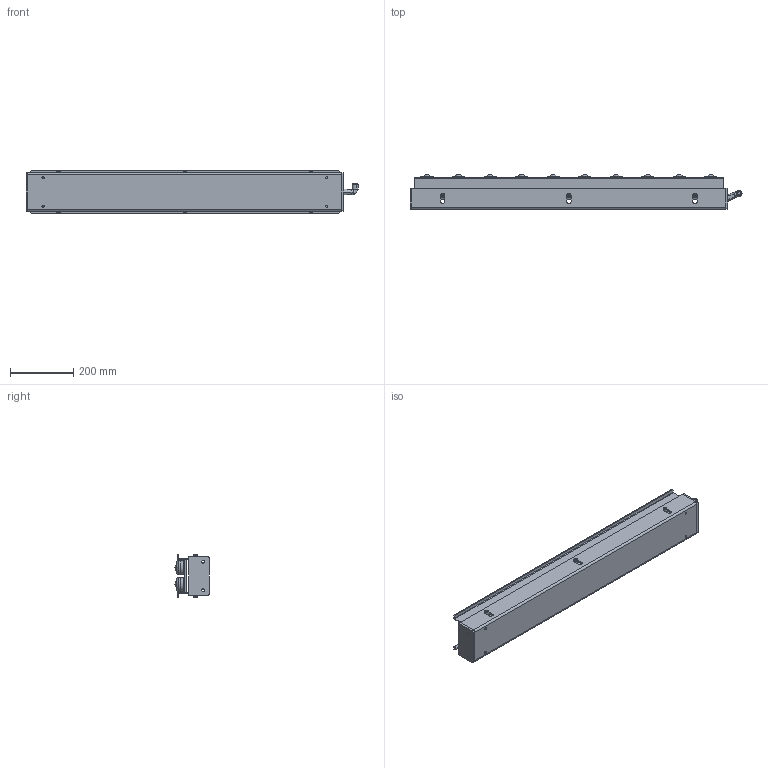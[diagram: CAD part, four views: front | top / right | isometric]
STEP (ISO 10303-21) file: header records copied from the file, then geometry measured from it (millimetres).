
FILE_DESCRIPTION (( 'STEP AP214' ), '1' );
FILE_NAME ('ALB-BB1008_H.STEP', '2013-03-19T08:09:46', ( '' ), ( '' ), '', '', '' );
FILE_SCHEMA (( 'AUTOMOTIVE_DESIGN' ));
Length unit declared in the file: millimetre
Products named in the file (6): ALB-BB1008_H; frame2; frame1; CB10_12; B-A25; KQ2W10_03S_2_03
Assembly tree (29 placements, depth 2):
  ALB-BB1008_H
    frame2
    frame1
    CB10_12  x6
    B-A25  x20
    KQ2W10_03S_2_03
Bounding box: 1052.99 x 109.95 x 135 mm (x, y, z)
Volume: 3198155.4 mm3; surface area: 1493335.1 mm2
Topology: 32 solids, 32 shells, 1376 faces, 3246 edges, 2106 vertices
Faces by surface type: cylinder 600, plane 434, bspline 302, cone 40
Entity records: 13308 total; most frequent: CARTESIAN_POINT 2913, DIRECTION 1965, ORIENTED_EDGE 1768, EDGE_CURVE 884, AXIS2_PLACEMENT_3D 749, VERTEX_POINT 583, EDGE_LOOP 487, VECTOR 467
